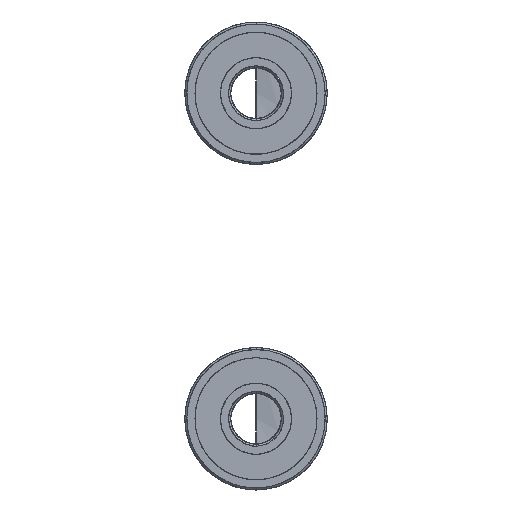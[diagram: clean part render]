
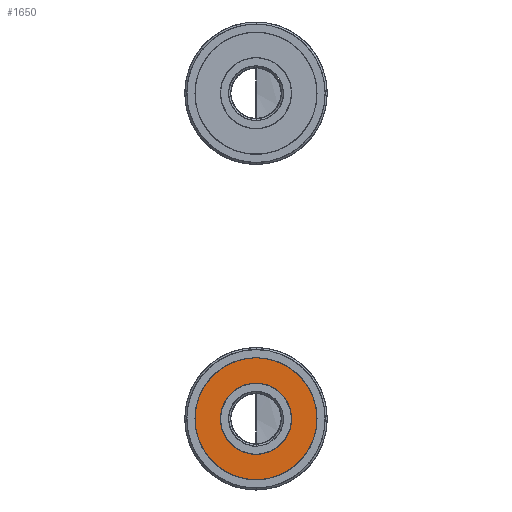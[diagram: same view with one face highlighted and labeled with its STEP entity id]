
A CAD part, left-side view. The second image highlights one B-rep face of the part: STEP entity #1650.
In plain terms, the highlighted planar face has unit normal (-1, 0, 0).
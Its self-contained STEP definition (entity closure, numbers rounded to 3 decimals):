
#58=FACE_BOUND('',#1938,.T.);
#88=PLANE('',#5758);
#1650=ADVANCED_FACE('',(#1780,#58),#88,.T.);
#1780=FACE_OUTER_BOUND('',#1937,.T.);
#1937=EDGE_LOOP('',(#2380));
#1938=EDGE_LOOP('',(#2381));
#2380=ORIENTED_EDGE('',*,*,#4715,.T.);
#2381=ORIENTED_EDGE('',*,*,#4716,.T.);
#2835=PCURVE('',#88,#3290);
#2836=PCURVE('',#88,#3291);
#3290=DEFINITIONAL_REPRESENTATION('',(#5109),#13987);
#3291=DEFINITIONAL_REPRESENTATION('',(#5111),#13987);
#4260=SURFACE_CURVE('',#5108,(#2835),.PCURVE_S1.);
#4261=SURFACE_CURVE('',#5110,(#2836),.PCURVE_S1.);
#4715=EDGE_CURVE('',#5565,#5565,#4260,.T.);
#4716=EDGE_CURVE('',#5566,#5566,#4261,.T.);
#5108=(
BOUNDED_CURVE()
B_SPLINE_CURVE(2,(#13562,#13563,#13564,#13565,#13566,#13567,#13568,#13569,
#13570),.UNSPECIFIED.,.T.,.F.)
B_SPLINE_CURVE_WITH_KNOTS((3,2,2,2,3),(-9.425,-7.854,
-6.283,-4.712,-3.142),.UNSPECIFIED.)
CURVE()
GEOMETRIC_REPRESENTATION_ITEM()
RATIONAL_B_SPLINE_CURVE((1.,0.707,1.,0.707,1.,0.707,
1.,0.707,1.))
REPRESENTATION_ITEM('')
);
#5109=(
BOUNDED_CURVE()
B_SPLINE_CURVE(2,(#13571,#13572,#13573,#13574,#13575,#13576,#13577,#13578,
#13579),.UNSPECIFIED.,.T.,.F.)
B_SPLINE_CURVE_WITH_KNOTS((3,2,2,2,3),(-9.425,-7.854,
-6.283,-4.712,-3.142),.UNSPECIFIED.)
CURVE()
GEOMETRIC_REPRESENTATION_ITEM()
RATIONAL_B_SPLINE_CURVE((1.,0.707,1.,0.707,1.,0.707,
1.,0.707,1.))
REPRESENTATION_ITEM('')
);
#5110=(
BOUNDED_CURVE()
B_SPLINE_CURVE(2,(#13580,#13581,#13582,#13583,#13584,#13585,#13586,#13587,
#13588),.UNSPECIFIED.,.T.,.F.)
B_SPLINE_CURVE_WITH_KNOTS((3,2,2,2,3),(-6.283,-4.712,
-3.142,-1.571,0.),.UNSPECIFIED.)
CURVE()
GEOMETRIC_REPRESENTATION_ITEM()
RATIONAL_B_SPLINE_CURVE((1.,0.707,1.,0.707,1.,0.707,
1.,0.707,1.))
REPRESENTATION_ITEM('')
);
#5111=(
BOUNDED_CURVE()
B_SPLINE_CURVE(2,(#13589,#13590,#13591,#13592,#13593,#13594,#13595,#13596,
#13597),.UNSPECIFIED.,.T.,.F.)
B_SPLINE_CURVE_WITH_KNOTS((3,2,2,2,3),(-6.283,-4.712,
-3.142,-1.571,0.),.UNSPECIFIED.)
CURVE()
GEOMETRIC_REPRESENTATION_ITEM()
RATIONAL_B_SPLINE_CURVE((1.,0.707,1.,0.707,1.,0.707,
1.,0.707,1.))
REPRESENTATION_ITEM('')
);
#5565=VERTEX_POINT('',#13560);
#5566=VERTEX_POINT('',#13561);
#5758=AXIS2_PLACEMENT_3D('',#13559,#5797,$);
#5797=DIRECTION('',(-1.,0.,0.));
#13559=CARTESIAN_POINT('',(0.524,6.,6.));
#13560=CARTESIAN_POINT('',(0.524,-6.,0.));
#13561=CARTESIAN_POINT('',(0.524,3.5,0.));
#13562=CARTESIAN_POINT('',(0.524,-6.,0.));
#13563=CARTESIAN_POINT('',(0.524,-6.,6.));
#13564=CARTESIAN_POINT('',(0.524,0.,6.));
#13565=CARTESIAN_POINT('',(0.524,6.,6.));
#13566=CARTESIAN_POINT('',(0.524,6.,0.));
#13567=CARTESIAN_POINT('',(0.524,6.,-6.));
#13568=CARTESIAN_POINT('',(0.524,0.,-6.));
#13569=CARTESIAN_POINT('',(0.524,-6.,-6.));
#13570=CARTESIAN_POINT('',(0.524,-6.,0.));
#13571=CARTESIAN_POINT('',(0.5,1.));
#13572=CARTESIAN_POINT('',(0.,1.));
#13573=CARTESIAN_POINT('',(0.,0.5));
#13574=CARTESIAN_POINT('',(0.,0.));
#13575=CARTESIAN_POINT('',(0.5,0.));
#13576=CARTESIAN_POINT('',(1.,0.));
#13577=CARTESIAN_POINT('',(1.,0.5));
#13578=CARTESIAN_POINT('',(1.,1.));
#13579=CARTESIAN_POINT('',(0.5,1.));
#13580=CARTESIAN_POINT('',(0.524,3.5,0.));
#13581=CARTESIAN_POINT('',(0.524,3.5,3.5));
#13582=CARTESIAN_POINT('',(0.524,0.,3.5));
#13583=CARTESIAN_POINT('',(0.524,-3.5,3.5));
#13584=CARTESIAN_POINT('',(0.524,-3.5,0.));
#13585=CARTESIAN_POINT('',(0.524,-3.5,-3.5));
#13586=CARTESIAN_POINT('',(0.524,0.,-3.5));
#13587=CARTESIAN_POINT('',(0.524,3.5,-3.5));
#13588=CARTESIAN_POINT('',(0.524,3.5,0.));
#13589=CARTESIAN_POINT('',(0.5,0.208));
#13590=CARTESIAN_POINT('',(0.208,0.208));
#13591=CARTESIAN_POINT('',(0.208,0.5));
#13592=CARTESIAN_POINT('',(0.208,0.792));
#13593=CARTESIAN_POINT('',(0.5,0.792));
#13594=CARTESIAN_POINT('',(0.792,0.792));
#13595=CARTESIAN_POINT('',(0.792,0.5));
#13596=CARTESIAN_POINT('',(0.792,0.208));
#13597=CARTESIAN_POINT('',(0.5,0.208));
#13987=(
GEOMETRIC_REPRESENTATION_CONTEXT(2)
PARAMETRIC_REPRESENTATION_CONTEXT()
REPRESENTATION_CONTEXT('pspace','')
);
